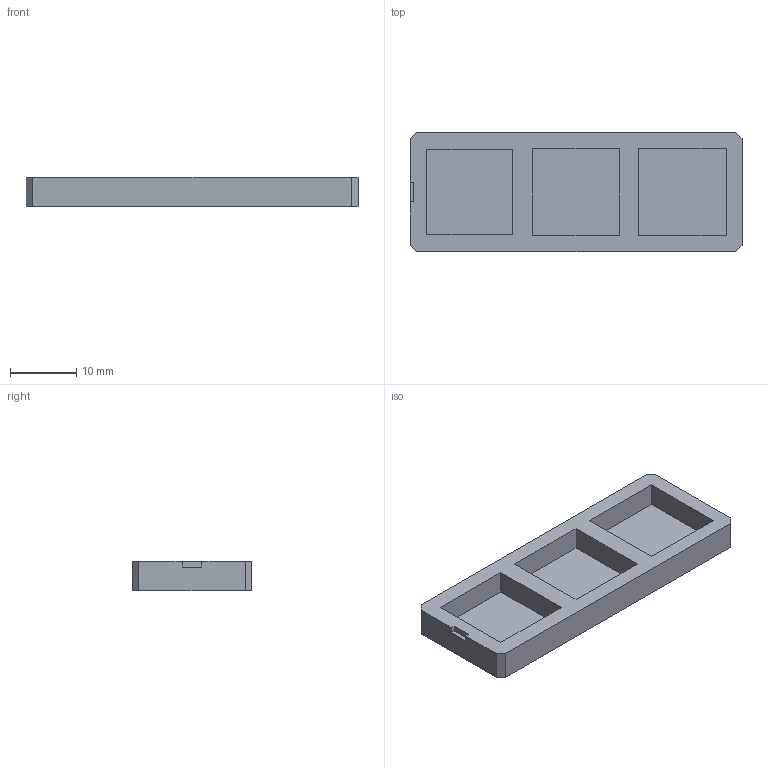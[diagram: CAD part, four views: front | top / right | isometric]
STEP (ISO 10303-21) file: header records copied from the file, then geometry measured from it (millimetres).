
FILE_DESCRIPTION(('Open CASCADE Model'),'2;1');
FILE_NAME('Open CASCADE Shape Model','2026-10-01T18:32:20',('Author'),( 'Open CASCADE'),'Open CASCADE STEP processor 8.0','build123d', 'Unknown');
FILE_SCHEMA(('AUTOMOTIVE_DESIGN { 1 0 10303 214 1 1 1 1 }'));
Length unit declared in the file: millimetre
Products named in the file (1): COMPOUND
Bounding box: 49.95 x 18 x 4.4 mm (x, y, z)
Volume: 2106.2 mm3; surface area: 2946.7 mm2
Topology: 1 solids, 1 shells, 29 faces, 72 edges, 48 vertices
Faces by surface type: plane 29
Entity records: 1756 total; most frequent: CARTESIAN_POINT 330, DIRECTION 240, LINE 180, VECTOR 180, ORIENTED_EDGE 144, PCURVE 144, DEFINITIONAL_REPRESENTATION 144, EDGE_CURVE 72
